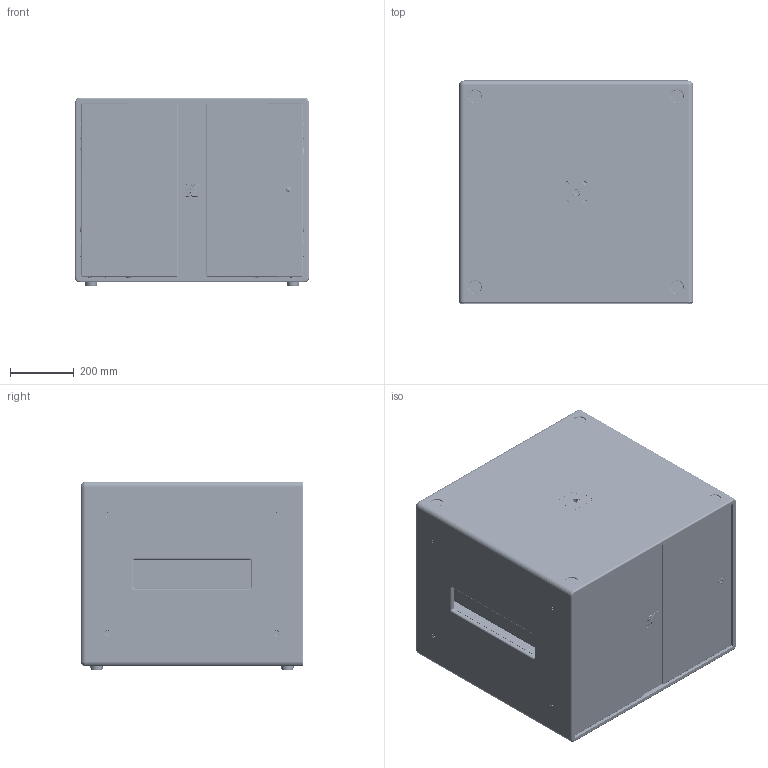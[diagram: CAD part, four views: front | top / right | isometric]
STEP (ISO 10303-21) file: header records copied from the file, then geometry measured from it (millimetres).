
FILE_DESCRIPTION(/* description */ (''),/* implementation_level */ '2;1');
FILE_NAME(/* name */ 'KS3 I',/* time_stamp */ '2026-03-12T15:45:20+01:00',/* author */ (''),/* organization */ (''),/* preprocessor_version */ 'ST-DEVELOPER v19.2',/* originating_system */ 'Rhino 8.24',/* authorisation */ '');
FILE_SCHEMA (('CONFIG_CONTROL_DESIGN'));
Products named in the file (57): Document; MCP139A13_01; MCP139A12_01; MCP139A01_04_BRD24; Etichetta-57x20; VTM03X10STIN0; BRD242000B; VTA03X10RTIN01; MMBLC026; VTM03X06TPTIXO; VH808025V12; PWRCONNTFMTRUE1; SPEAKONEUTRIKAUTO; MCA139B00_01; MCP139A10_01; Raspberry Pi 4 Model B; VTM05X25BTINO_M5X30; VTM04X20BTIN0; LOGOKGRANDE; VTM05X25STIN0; MCA144A01_04; Ragno M5x8 inox; MCP144A10_02; ragno M8 x 10; MCP144A09_02; MCP144A06_02; MCP144A12_03; Bussola Legno M4x10 Svasata; MCP144A19_03; MCP144A11_02; Piedino 40x16; MCA144A05_024; MCP144A05_02; Inserto M8X14-Esagano aperto AISI; MCP144A08_02; ISO 7045 - M5 x 25 - Z - 25N_ISO 7045 - M5 x 25 - Z - 25N; MCP144A16_02; VTM08X30TBBIN; MCP144A15_04; MCA144A05_025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
Bounding box: 735 x 700 x 591.94 mm (x, y, z)
Volume: 45400077.3 mm3; surface area: 7808106 mm2
Topology: 183 solids, 183 shells, 11737 faces, 30440 edges, 19346 vertices
Faces by surface type: plane 5068, cylinder 4330, bspline 2339
Entity records: 319500 total; most frequent: CARTESIAN_POINT 136499, ORIENTED_EDGE 39192, EDGE_CURVE 19596, DIRECTION 16119, B_SPLINE_CURVE_WITH_KNOTS 14406, VERTEX_POINT 12512, AXIS2_PLACEMENT_3D 11138, EDGE_LOOP 8194
